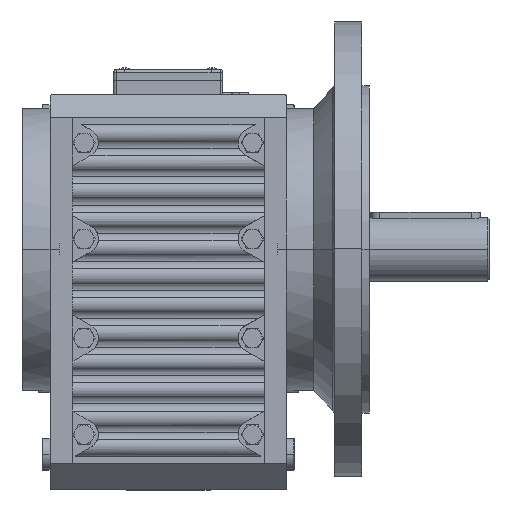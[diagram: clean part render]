
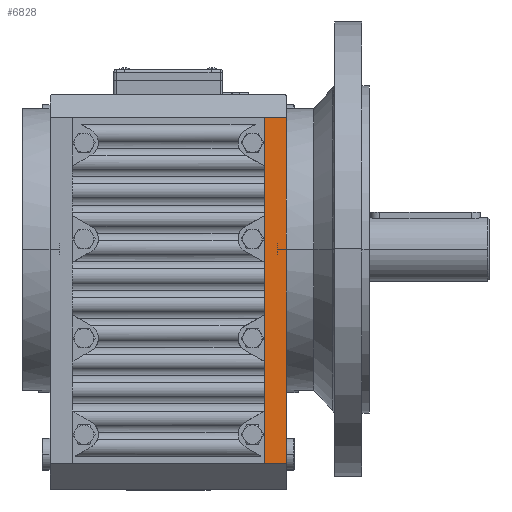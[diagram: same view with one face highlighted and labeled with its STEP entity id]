
A CAD part, top view. The second image highlights one B-rep face of the part: STEP entity #6828.
In plain terms, the highlighted planar face has unit normal (0, 0, 1).
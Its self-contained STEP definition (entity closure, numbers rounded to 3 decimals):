
#1620 = DIRECTION ( 'NONE',  ( 1., 0., 0. ) ) ;
#1902 = CARTESIAN_POINT ( 'NONE',  ( -5.664, -23.278, 99.212 ) ) ;
#2527 = CARTESIAN_POINT ( 'NONE',  ( -5.664, -107.418, 99.212 ) ) ;
#5915 = LINE ( 'NONE', #19513, #45925 ) ;
#6828 = ADVANCED_FACE ( 'NONE', ( #36191 ), #52047, .T. ) ;
#7150 = ORIENTED_EDGE ( 'NONE', *, *, #8014, .T. ) ;
#8014 = EDGE_CURVE ( 'NONE', #37535, #31213, #52554, .T. ) ;
#8894 = CARTESIAN_POINT ( 'NONE',  ( -17.851, 95.582, 99.212 ) ) ;
#10015 = CARTESIAN_POINT ( 'NONE',  ( -5.664, -12.238, 99.212 ) ) ;
#10134 = VERTEX_POINT ( 'NONE', #65064 ) ;
#14677 = VECTOR ( 'NONE', #24706, 1000. ) ;
#17353 = VERTEX_POINT ( 'NONE', #29084 ) ;
#19373 = EDGE_CURVE ( 'NONE', #17353, #62230, #5915, .T. ) ;
#19513 = CARTESIAN_POINT ( 'NONE',  ( -17.851, 82.942, 99.212 ) ) ;
#21070 = CARTESIAN_POINT ( 'NONE',  ( -17.851, -107.418, 99.212 ) ) ;
#23586 = DIRECTION ( 'NONE',  ( 0., -1., 0. ) ) ;
#24706 = DIRECTION ( 'NONE',  ( 0., 1., 0. ) ) ;
#25323 = EDGE_CURVE ( 'NONE', #62230, #10134, #46857, .T. ) ;
#26285 = DIRECTION ( 'NONE',  ( 1., 0., 0. ) ) ;
#29084 = CARTESIAN_POINT ( 'NONE',  ( -5.664, 82.942, 99.212 ) ) ;
#31213 = VERTEX_POINT ( 'NONE', #51931 ) ;
#31431 = DIRECTION ( 'NONE',  ( 0., 0., 1. ) ) ;
#31502 = VECTOR ( 'NONE', #45077, 1000. ) ;
#31803 = VERTEX_POINT ( 'NONE', #2527 ) ;
#32091 = CARTESIAN_POINT ( 'NONE',  ( -17.851, 95.582, 99.212 ) ) ;
#36191 = FACE_OUTER_BOUND ( 'NONE', #65201, .T. ) ;
#36412 = DIRECTION ( 'NONE',  ( 0., 1., 0. ) ) ;
#36637 = LINE ( 'NONE', #10015, #14677 ) ;
#36907 = EDGE_CURVE ( 'NONE', #10134, #31803, #48782, .T. ) ;
#37240 = ORIENTED_EDGE ( 'NONE', *, *, #52587, .T. ) ;
#37535 = VERTEX_POINT ( 'NONE', #1902 ) ;
#40540 = ORIENTED_EDGE ( 'NONE', *, *, #36907, .T. ) ;
#43492 = AXIS2_PLACEMENT_3D ( 'NONE', #32091, #31431, #1620 ) ;
#45077 = DIRECTION ( 'NONE',  ( 0., 1., 0. ) ) ;
#45925 = VECTOR ( 'NONE', #49571, 1000. ) ;
#46857 = LINE ( 'NONE', #8894, #64214 ) ;
#48782 = LINE ( 'NONE', #21070, #63809 ) ;
#49345 = EDGE_CURVE ( 'NONE', #31803, #37535, #36637, .T. ) ;
#49571 = DIRECTION ( 'NONE',  ( -1., 0., 0. ) ) ;
#51336 = CARTESIAN_POINT ( 'NONE',  ( -5.664, 95.582, 99.212 ) ) ;
#51562 = ORIENTED_EDGE ( 'NONE', *, *, #19373, .T. ) ;
#51847 = CARTESIAN_POINT ( 'NONE',  ( -17.851, 82.942, 99.212 ) ) ;
#51931 = CARTESIAN_POINT ( 'NONE',  ( -5.664, 44.442, 99.212 ) ) ;
#52047 = PLANE ( 'NONE',  #43492 ) ;
#52554 = LINE ( 'NONE', #51336, #54872 ) ;
#52587 = EDGE_CURVE ( 'NONE', #31213, #17353, #60604, .T. ) ;
#53091 = ORIENTED_EDGE ( 'NONE', *, *, #49345, .T. ) ;
#54702 = ORIENTED_EDGE ( 'NONE', *, *, #25323, .T. ) ;
#54872 = VECTOR ( 'NONE', #36412, 1000. ) ;
#60523 = CARTESIAN_POINT ( 'NONE',  ( -5.664, 95.582, 99.212 ) ) ;
#60604 = LINE ( 'NONE', #60523, #31502 ) ;
#62230 = VERTEX_POINT ( 'NONE', #51847 ) ;
#63809 = VECTOR ( 'NONE', #26285, 1000. ) ;
#64214 = VECTOR ( 'NONE', #23586, 1000. ) ;
#65064 = CARTESIAN_POINT ( 'NONE',  ( -17.851, -107.418, 99.212 ) ) ;
#65201 = EDGE_LOOP ( 'NONE', ( #54702, #40540, #53091, #7150, #37240, #51562 ) ) ;
